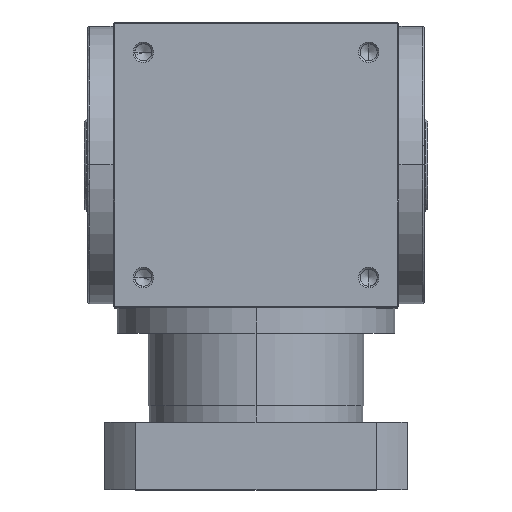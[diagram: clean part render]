
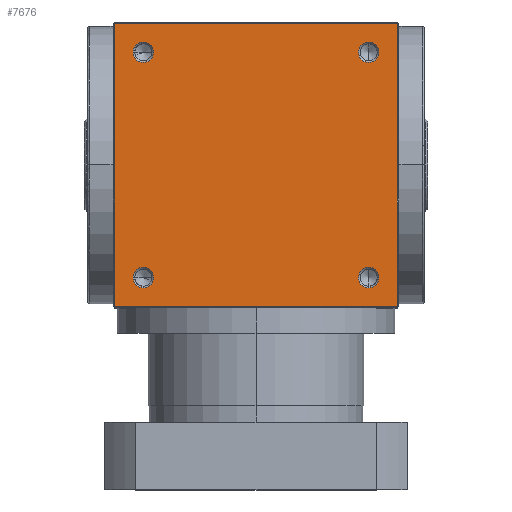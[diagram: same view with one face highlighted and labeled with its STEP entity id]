
A CAD part, top view. The second image highlights one B-rep face of the part: STEP entity #7676.
In plain terms, the highlighted planar face has unit normal (0, 0, 1).
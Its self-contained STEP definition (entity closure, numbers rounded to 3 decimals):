
#294 = VERTEX_POINT ( 'NONE', #1805 ) ;
#344 = FACE_OUTER_BOUND ( 'NONE', #3040, .T. ) ;
#390 = VERTEX_POINT ( 'NONE', #2905 ) ;
#445 = LINE ( 'NONE', #5320, #5989 ) ;
#555 = DIRECTION ( 'NONE',  ( 0., 0., 1. ) ) ;
#603 = DIRECTION ( 'NONE',  ( 1., 0., 0. ) ) ;
#623 = ORIENTED_EDGE ( 'NONE', *, *, #5987, .T. ) ;
#676 = CARTESIAN_POINT ( 'NONE',  ( 60.9, -67., 85. ) ) ;
#910 = CARTESIAN_POINT ( 'NONE',  ( -60.9, -67., 85. ) ) ;
#913 = EDGE_CURVE ( 'NONE', #390, #2240, #4480, .T. ) ;
#920 = ORIENTED_EDGE ( 'NONE', *, *, #8466, .T. ) ;
#1068 = DIRECTION ( 'NONE',  ( 1., 0., 0. ) ) ;
#1086 = EDGE_CURVE ( 'NONE', #294, #5709, #4908, .T. ) ;
#1263 = CARTESIAN_POINT ( 'NONE',  ( -73.1, 67., 85. ) ) ;
#1294 = ORIENTED_EDGE ( 'NONE', *, *, #913, .T. ) ;
#1361 = CIRCLE ( 'NONE', #8315, 6.1 ) ;
#1381 = ORIENTED_EDGE ( 'NONE', *, *, #1086, .F. ) ;
#1555 = EDGE_LOOP ( 'NONE', ( #4181, #7428 ) ) ;
#1579 = ORIENTED_EDGE ( 'NONE', *, *, #1981, .F. ) ;
#1661 = LINE ( 'NONE', #7583, #6798 ) ;
#1782 = ORIENTED_EDGE ( 'NONE', *, *, #2972, .F. ) ;
#1805 = CARTESIAN_POINT ( 'NONE',  ( -60.9, 67., 85. ) ) ;
#1818 = DIRECTION ( 'NONE',  ( 0., 0., 1. ) ) ;
#1944 = AXIS2_PLACEMENT_3D ( 'NONE', #5682, #4387, #5597 ) ;
#1981 = EDGE_CURVE ( 'NONE', #2970, #8746, #7169, .T. ) ;
#2099 = AXIS2_PLACEMENT_3D ( 'NONE', #7410, #8254, #3322 ) ;
#2133 = CARTESIAN_POINT ( 'NONE',  ( 67., -67., 85. ) ) ;
#2164 = CARTESIAN_POINT ( 'NONE',  ( 0., 0., 85. ) ) ;
#2240 = VERTEX_POINT ( 'NONE', #7056 ) ;
#2370 = EDGE_CURVE ( 'NONE', #8276, #8399, #1361, .T. ) ;
#2408 = PLANE ( 'NONE',  #7715 ) ;
#2565 = CIRCLE ( 'NONE', #4847, 6.1 ) ;
#2614 = AXIS2_PLACEMENT_3D ( 'NONE', #8249, #4798, #2655 ) ;
#2626 = DIRECTION ( 'NONE',  ( 1., 0., 0. ) ) ;
#2655 = DIRECTION ( 'NONE',  ( 1., 0., 0. ) ) ;
#2821 = VERTEX_POINT ( 'NONE', #910 ) ;
#2875 = DIRECTION ( 'NONE',  ( 0., 1., 0. ) ) ;
#2905 = CARTESIAN_POINT ( 'NONE',  ( 84., 84., 85. ) ) ;
#2970 = VERTEX_POINT ( 'NONE', #6756 ) ;
#2972 = EDGE_CURVE ( 'NONE', #8399, #8276, #8468, .T. ) ;
#3009 = LINE ( 'NONE', #4337, #5090 ) ;
#3035 = EDGE_LOOP ( 'NONE', ( #1381, #7805 ) ) ;
#3040 = EDGE_LOOP ( 'NONE', ( #8714, #920, #1294, #623 ) ) ;
#3049 = CARTESIAN_POINT ( 'NONE',  ( -73.1, -67., 85. ) ) ;
#3081 = FACE_BOUND ( 'NONE', #3035, .T. ) ;
#3119 = DIRECTION ( 'NONE',  ( -1., 0., 0. ) ) ;
#3129 = AXIS2_PLACEMENT_3D ( 'NONE', #3556, #8178, #3513 ) ;
#3254 = VERTEX_POINT ( 'NONE', #5114 ) ;
#3322 = DIRECTION ( 'NONE',  ( 1., 0., 0. ) ) ;
#3513 = DIRECTION ( 'NONE',  ( 1., 0., 0. ) ) ;
#3556 = CARTESIAN_POINT ( 'NONE',  ( -67., -67., 85. ) ) ;
#3695 = EDGE_CURVE ( 'NONE', #3254, #5390, #3009, .T. ) ;
#3794 = FACE_BOUND ( 'NONE', #8672, .T. ) ;
#3848 = DIRECTION ( 'NONE',  ( 0., -1., 0. ) ) ;
#3870 = DIRECTION ( 'NONE',  ( 1., 0., 0. ) ) ;
#3885 = ORIENTED_EDGE ( 'NONE', *, *, #2370, .F. ) ;
#4181 = ORIENTED_EDGE ( 'NONE', *, *, #7224, .F. ) ;
#4332 = VECTOR ( 'NONE', #5325, 1000. ) ;
#4337 = CARTESIAN_POINT ( 'NONE',  ( 0., -84., 85. ) ) ;
#4387 = DIRECTION ( 'NONE',  ( 0., 0., 1. ) ) ;
#4480 = LINE ( 'NONE', #7856, #4332 ) ;
#4646 = CIRCLE ( 'NONE', #2099, 6.1 ) ;
#4798 = DIRECTION ( 'NONE',  ( 0., 0., 1. ) ) ;
#4847 = AXIS2_PLACEMENT_3D ( 'NONE', #8706, #1818, #3870 ) ;
#4908 = CIRCLE ( 'NONE', #2614, 6.1 ) ;
#5090 = VECTOR ( 'NONE', #1068, 1000. ) ;
#5114 = CARTESIAN_POINT ( 'NONE',  ( -84., -84., 85. ) ) ;
#5251 = CARTESIAN_POINT ( 'NONE',  ( 84., -84., 85. ) ) ;
#5296 = EDGE_CURVE ( 'NONE', #8746, #2970, #2565, .T. ) ;
#5320 = CARTESIAN_POINT ( 'NONE',  ( -84., 0., 85. ) ) ;
#5325 = DIRECTION ( 'NONE',  ( -1., 0., 0. ) ) ;
#5326 = CARTESIAN_POINT ( 'NONE',  ( 67., -67., 85. ) ) ;
#5390 = VERTEX_POINT ( 'NONE', #5251 ) ;
#5391 = EDGE_CURVE ( 'NONE', #6309, #2821, #5694, .T. ) ;
#5503 = AXIS2_PLACEMENT_3D ( 'NONE', #2133, #555, #603 ) ;
#5597 = DIRECTION ( 'NONE',  ( 1., 0., 0. ) ) ;
#5682 = CARTESIAN_POINT ( 'NONE',  ( -67., 67., 85. ) ) ;
#5694 = CIRCLE ( 'NONE', #3129, 6.1 ) ;
#5709 = VERTEX_POINT ( 'NONE', #1263 ) ;
#5755 = AXIS2_PLACEMENT_3D ( 'NONE', #6177, #8701, #2626 ) ;
#5796 = FACE_BOUND ( 'NONE', #6979, .T. ) ;
#5987 = EDGE_CURVE ( 'NONE', #2240, #3254, #445, .T. ) ;
#5989 = VECTOR ( 'NONE', #3848, 1000. ) ;
#6127 = DIRECTION ( 'NONE',  ( 0., 0., 1. ) ) ;
#6177 = CARTESIAN_POINT ( 'NONE',  ( 67., 67., 85. ) ) ;
#6309 = VERTEX_POINT ( 'NONE', #3049 ) ;
#6316 = CARTESIAN_POINT ( 'NONE',  ( 60.9, 67., 85. ) ) ;
#6481 = CIRCLE ( 'NONE', #1944, 6.1 ) ;
#6486 = DIRECTION ( 'NONE',  ( 0., 0., -1. ) ) ;
#6520 = ORIENTED_EDGE ( 'NONE', *, *, #5296, .F. ) ;
#6756 = CARTESIAN_POINT ( 'NONE',  ( 73.1, 67., 85. ) ) ;
#6798 = VECTOR ( 'NONE', #2875, 1000. ) ;
#6979 = EDGE_LOOP ( 'NONE', ( #1579, #6520 ) ) ;
#7056 = CARTESIAN_POINT ( 'NONE',  ( -84., 84., 85. ) ) ;
#7169 = CIRCLE ( 'NONE', #5755, 6.1 ) ;
#7220 = CARTESIAN_POINT ( 'NONE',  ( 73.1, -67., 85. ) ) ;
#7224 = EDGE_CURVE ( 'NONE', #2821, #6309, #4646, .T. ) ;
#7333 = EDGE_CURVE ( 'NONE', #5709, #294, #6481, .T. ) ;
#7410 = CARTESIAN_POINT ( 'NONE',  ( -67., -67., 85. ) ) ;
#7428 = ORIENTED_EDGE ( 'NONE', *, *, #5391, .F. ) ;
#7452 = DIRECTION ( 'NONE',  ( 1., 0., 0. ) ) ;
#7583 = CARTESIAN_POINT ( 'NONE',  ( 84., 0., 85. ) ) ;
#7676 = ADVANCED_FACE ( 'NONE', ( #344, #3081, #5796, #8492, #3794 ), #2408, .F. ) ;
#7715 = AXIS2_PLACEMENT_3D ( 'NONE', #2164, #6486, #3119 ) ;
#7805 = ORIENTED_EDGE ( 'NONE', *, *, #7333, .F. ) ;
#7856 = CARTESIAN_POINT ( 'NONE',  ( 0., 84., 85. ) ) ;
#8178 = DIRECTION ( 'NONE',  ( 0., 0., 1. ) ) ;
#8249 = CARTESIAN_POINT ( 'NONE',  ( -67., 67., 85. ) ) ;
#8254 = DIRECTION ( 'NONE',  ( 0., 0., 1. ) ) ;
#8276 = VERTEX_POINT ( 'NONE', #7220 ) ;
#8315 = AXIS2_PLACEMENT_3D ( 'NONE', #5326, #6127, #7452 ) ;
#8399 = VERTEX_POINT ( 'NONE', #676 ) ;
#8466 = EDGE_CURVE ( 'NONE', #5390, #390, #1661, .T. ) ;
#8468 = CIRCLE ( 'NONE', #5503, 6.1 ) ;
#8492 = FACE_BOUND ( 'NONE', #1555, .T. ) ;
#8672 = EDGE_LOOP ( 'NONE', ( #3885, #1782 ) ) ;
#8701 = DIRECTION ( 'NONE',  ( 0., 0., 1. ) ) ;
#8706 = CARTESIAN_POINT ( 'NONE',  ( 67., 67., 85. ) ) ;
#8714 = ORIENTED_EDGE ( 'NONE', *, *, #3695, .T. ) ;
#8746 = VERTEX_POINT ( 'NONE', #6316 ) ;
